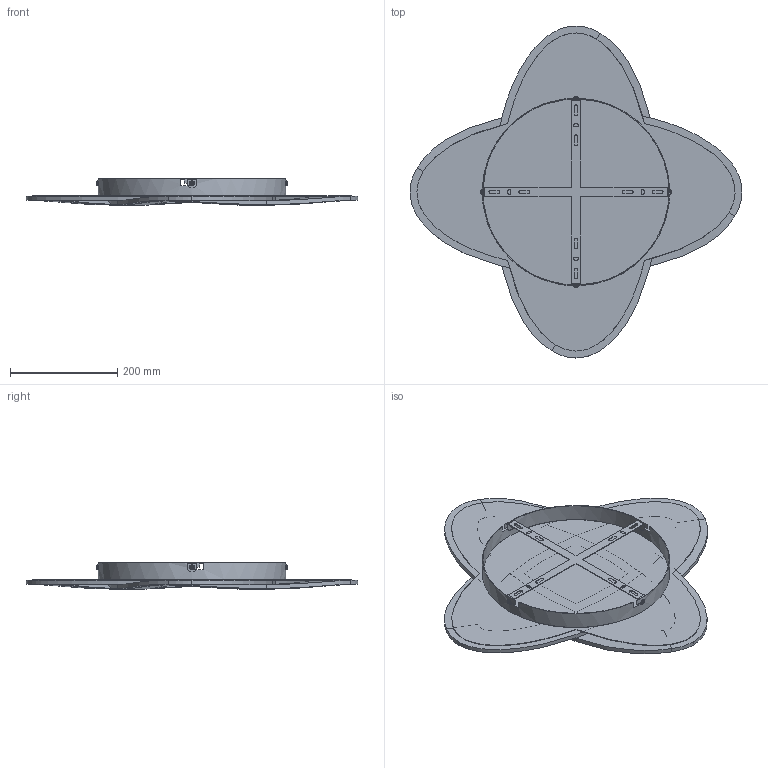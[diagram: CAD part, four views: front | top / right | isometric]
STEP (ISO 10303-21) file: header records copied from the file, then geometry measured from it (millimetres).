
FILE_DESCRIPTION(/* description */ (''),/* implementation_level */ '2;1');
FILE_NAME(/* name */ 'DC-LM-0105(VT-7962).stp',/* time_stamp */ '2026-06-11T17:32:07+08:00',/* author */ (''),/* organization */ (''),/* preprocessor_version */ 'ST-DEVELOPER v16',/* originating_system */ 'SIEMENS PLM Software NX 10.0',/* authorisation */ '');
FILE_SCHEMA (('AP203_CONFIGURATION_CONTROLLED_3D_DESIGN_OF_MECHANICAL_PARTS_AND_ASSEMBLIES_MIM_LF { 1 0 10303 403 2 1 2}'));
Length unit declared in the file: millimetre
Products named in the file (1): 10E103D9Dfzsl
Bounding box: 620 x 620 x 50 mm (x, y, z)
Volume: 1644330.6 mm3; surface area: 1156854.1 mm2
Topology: 14 solids, 14 shells, 395 faces, 1022 edges, 656 vertices
Faces by surface type: plane 151, bspline 113, cylinder 88, extrusion 23, cone 16, torus 4
Full cylindrical faces by diameter (mm): 3.5 x4, 7 x4, 9.6 x4, 348 x1, 350 x1
Entity records: 33266 total; most frequent: CARTESIAN_POINT 24725, ORIENTED_EDGE 1984, DIRECTION 1277, EDGE_CURVE 992, VERTEX_POINT 646, B_SPLINE_CURVE_WITH_KNOTS 477, AXIS2_PLACEMENT_3D 460, EDGE_LOOP 456
